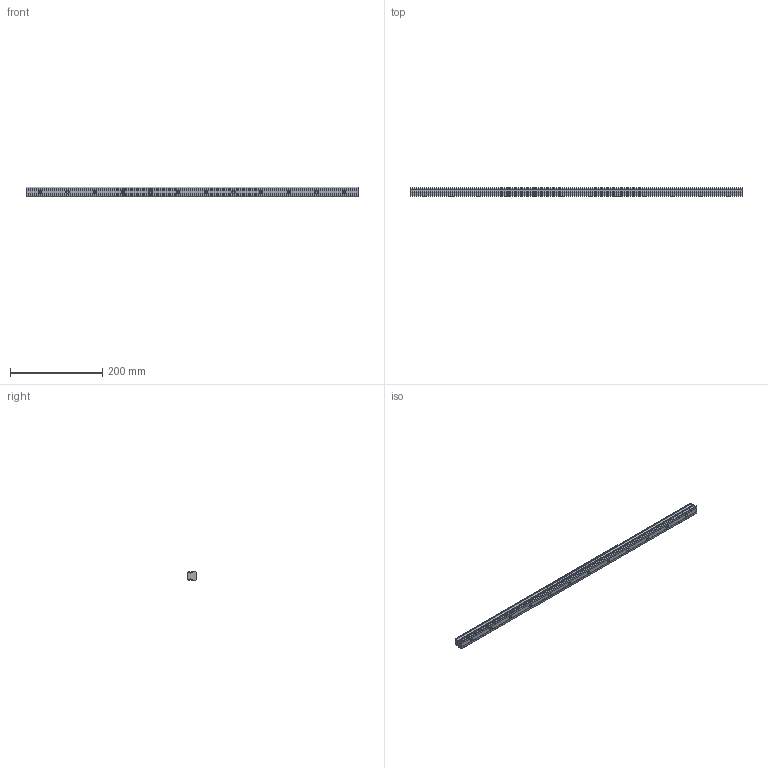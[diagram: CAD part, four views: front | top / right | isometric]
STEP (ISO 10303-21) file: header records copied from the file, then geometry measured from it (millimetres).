
FILE_DESCRIPTION (( 'STEP AP203' ), '1' );
FILE_NAME ('L1018.20R-0720.step', '2023-08-06T09:06:00', ( '' ), ( '' ), 'SwSTEP 2.0', 'SolidWorks 2019', '' );
FILE_SCHEMA (( 'CONFIG_CONTROL_DESIGN' ));
Length unit declared in the file: millimetre
Products named in the file (1): L1018.20R-0720
Bounding box: 720 x 19.3 x 20 mm (x, y, z)
Volume: 228332.4 mm3; surface area: 61408.1 mm2
Topology: 1 solids, 1 shells, 137 faces, 321 edges, 186 vertices
Faces by surface type: cylinder 51, cone 48, plane 38
Entity records: 3806 total; most frequent: DIRECTION 699, CARTESIAN_POINT 621, ORIENTED_EDGE 594, EDGE_CURVE 297, AXIS2_PLACEMENT_3D 264, VERTEX_POINT 186, LINE 171, VECTOR 171
